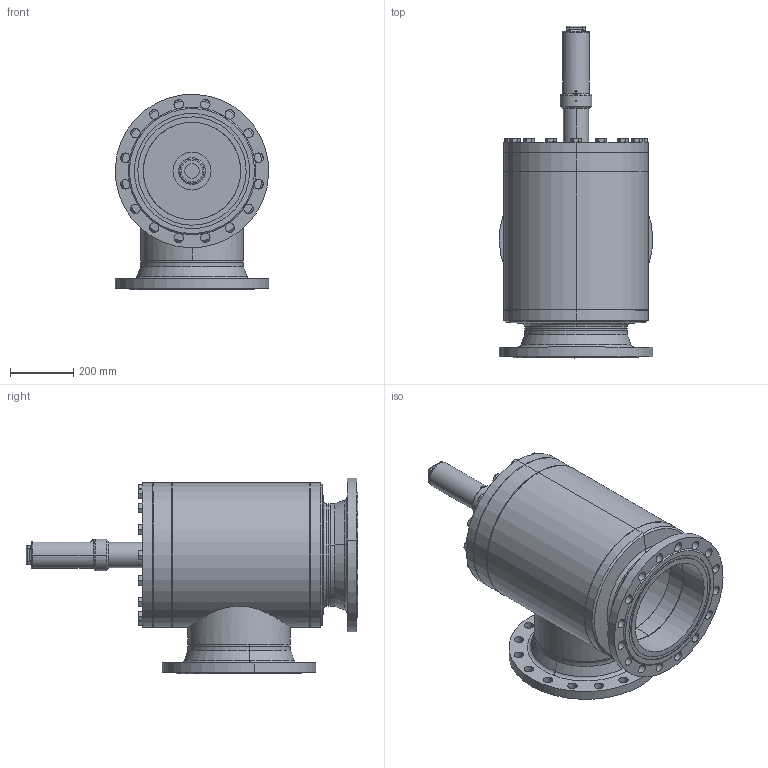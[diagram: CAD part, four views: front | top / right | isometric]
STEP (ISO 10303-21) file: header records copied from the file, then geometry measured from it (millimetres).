
FILE_DESCRIPTION (( 'STEP AP214' ), '1' );
FILE_NAME ('AVR26420C25-DN300_DIN-FL-N_PS25.STEP', '2009-02-06T09:20:29', ( 'Eckhard Grams' ), ( 'AWP Kälte Klima Armaturen GmbH' ), 'SwSTEP 2.0', 'SolidWorks 2002296', '' );
FILE_SCHEMA (( 'AUTOMOTIVE_DESIGN' ));
Length unit declared in the file: millimetre
Products named in the file (18): AVR26420C25-DN300_DIN-FL-N_PS25; Geh,kpl26420-DN300_DIN_PS25_Standard; Gehäuse26300-DN300_Standard; Rohrstutzen-A26300-DN300_R1_Standard; Boden26300-DN300_Standard; Kopfstück26300-DN300_Standard; Flansch-DIN2634-Nut_PS25_DIN-Flansch-DN300_PS25-Nut; bead Geh,kpl 26420-25-4_Standard; bead Geh,kpl 26420-25-3_Standard; bead Geh,kpl 26420-25-2_Standard; bead Geh,kpl 26420-25-1_Standard; AVR26300B25_Deck+Schr-DN300_Standard; Deckel,kpl26300B25-DN300_Standard; Scheibe f Deckel26300-DN300_Standard; bead-deck263-300_Standard; Buchse1 f Deckel26300-DN300_Standard; Sechskantschraube-DIN933_M20x 60; Kappe 16402-23_DN200-350 (M80x3)_Standard
Assembly tree (33 placements, depth 4):
  AVR26420C25-DN300_DIN-FL-N_PS25
    Geh,kpl26420-DN300_DIN_PS25_Standard
      Flansch-DIN2634-Nut_PS25_DIN-Flansch-DN300_PS25-Nut  x2
      bead Geh,kpl 26420-25-1_Standard
      Boden26300-DN300_Standard
      Gehäuse26300-DN300_Standard
      Rohrstutzen-A26300-DN300_R1_Standard
      bead Geh,kpl 26420-25-2_Standard
      bead Geh,kpl 26420-25-4_Standard
      Kopfstück26300-DN300_Standard
      bead Geh,kpl 26420-25-3_Standard
    AVR26300B25_Deck+Schr-DN300_Standard
      Deckel,kpl26300B25-DN300_Standard
        bead-deck263-300_Standard
        Scheibe f Deckel26300-DN300_Standard
        Buchse1 f Deckel26300-DN300_Standard
      Sechskantschraube-DIN933_M20x 60  x16
    Kappe 16402-23_DN200-350 (M80x3)_Standard
Bounding box: 484.88 x 1048 x 617.44 mm (x, y, z)
Volume: 34947608.3 mm3; surface area: 3866432.1 mm2
Topology: 30 solids, 30 shells, 750 faces, 1755 edges, 1065 vertices
Faces by surface type: cone 256, cylinder 232, plane 203, bspline 39, torus 20
Entity records: 27988 total; most frequent: CARTESIAN_POINT 19417, DIRECTION 1681, ORIENTED_EDGE 1570, EDGE_CURVE 785, AXIS2_PLACEMENT_3D 733, VERTEX_POINT 491, CIRCLE 414, EDGE_LOOP 410
